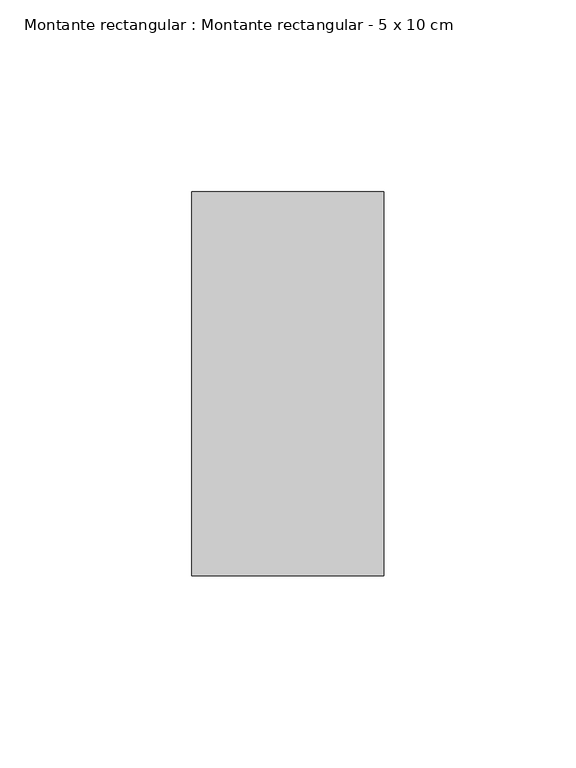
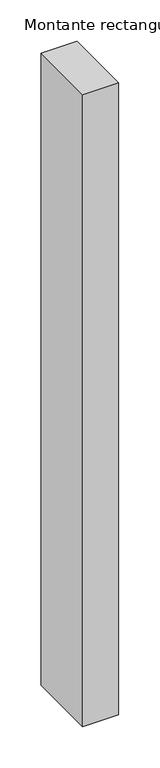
"""IFC4 building model written with IfcOpenShell, lengths in millimetres: member geometry, Montante rectangular : Montante rectangular - 5 x 10 cm."""

import ifcopenshell
import ifcopenshell.guid

model = None  # the IFC model being written
_history = None  # IfcOwnerHistory: only IFC2X3 demands one
_inside = {}  # id of a spatial element -> (the spatial element, [elements in it])
_under = {}  # id of a project, library or spatial element -> (it, [spatial elements below it])
_declared = {}  # id of a project -> (the project, [libraries it declares])
_typed = {}  # id of a type object -> (the type object, [elements of that type])
_made_of = {}  # id of a material, layer set ... -> (it, [elements and type objects made of it])


def new_model(schema):
    """Start an empty IFC model of exactly this schema.

    Asked for "IFC4X3", IfcOpenShell would pick the latest addendum, in which some entities
    have other attributes; the version numbers below select the first issue.
    IFC2X3 requires an IfcOwnerHistory on every rooted entity: one is made here for all.
    """
    global model, _history
    if schema == "IFC4X3":
        model = ifcopenshell.file(schema_version=(4, 3, 0, 0))
    else:
        model = ifcopenshell.file(schema=schema)
    _inside.clear()
    _under.clear()
    _declared.clear()
    _typed.clear()
    _made_of.clear()
    _history = None
    if model.schema == "IFC2X3":
        org = make("IfcOrganization", Name="unknown")
        user = make(
            "IfcPersonAndOrganization",
            ThePerson=make("IfcPerson", FamilyName="unknown"),
            TheOrganization=org,
        )
        app = make(
            "IfcApplication",
            ApplicationDeveloper=org,
            Version="unknown",
            ApplicationFullName="unknown",
            ApplicationIdentifier="unknown",
        )
        _history = make(
            "IfcOwnerHistory",
            OwningUser=user,
            OwningApplication=app,
            ChangeAction="ADDED",
            CreationDate=0,
        )
    return model


def make(cls, **values):
    """One entity of the class cls with the attributes given. An attribute that is None is left unset."""
    return model.create_entity(
        cls, **{name: value for name, value in values.items() if value is not None}
    )


def rooted(cls, **values):
    """An entity with a GlobalId (a new one), such as an element, a storey or a relation."""
    return make(cls, GlobalId=ifcopenshell.guid.new(), OwnerHistory=_history, **values)


def si_unit(unit_type, name, prefix=None):
    """IfcSIUnit, for example si_unit("LENGTHUNIT", "METRE", prefix="MILLI")."""
    return make("IfcSIUnit", UnitType=unit_type, Prefix=prefix, Name=name)


def assignment(units):
    """IfcUnitAssignment: the units of a project."""
    return None if units is None else make("IfcUnitAssignment", Units=units)


def point(xyz):
    """IfcCartesianPoint."""
    return None if xyz is None else make("IfcCartesianPoint", Coordinates=xyz)


def direction(xyz):
    """IfcDirection."""
    return None if xyz is None else make("IfcDirection", DirectionRatios=xyz)


def frame(location, z_axis=None, x_axis=None):
    """IfcAxis2Placement3D, a coordinate frame: its origin and axes. An axis left out is left unset."""
    return make(
        "IfcAxis2Placement3D",
        Location=point(location),
        Axis=direction(z_axis),
        RefDirection=direction(x_axis),
    )


def origin():
    """The frame at (0, 0, 0) with its axes left unset."""
    return frame((0.0, 0.0, 0.0))


def place(relative_to, where):
    """IfcLocalPlacement: puts the frame where relative to a parent placement (None: the world)."""
    return make(
        "IfcLocalPlacement", PlacementRelTo=relative_to, RelativePlacement=where
    )


def context(
    kind, dimensions, precision=None, world=None, true_north=None, identifier=None
):
    """IfcGeometricRepresentationContext, for example the 3D "Model" context."""
    return make(
        "IfcGeometricRepresentationContext",
        ContextIdentifier=identifier,
        ContextType=kind,
        CoordinateSpaceDimension=dimensions,
        Precision=precision,
        WorldCoordinateSystem=world,
        TrueNorth=true_north,
    )


def project(units=None, contexts=None):
    """IfcProject with its units and contexts."""
    return rooted(
        "IfcProject",
        Name="project",
        RepresentationContexts=contexts,
        UnitsInContext=assignment(units),
    )


def spatial(cls, under=None, at=None, **own):
    """A site, building, storey or space (cls), placed at a placement, below another one or the project."""
    s = rooted(cls, ObjectPlacement=at, **own)
    if under is not None:
        _under.setdefault(under.id(), (under, []))[1].append(s)
    return s


def polyline(points):
    """IfcPolyline through the points."""
    return make("IfcPolyline", Points=[point(p) for p in points])


def outline(outer, holes=None, kind="AREA"):
    """IfcArbitraryClosedProfileDef: a profile drawn as a closed curve; with holes, ...WithVoids."""
    if holes is None:
        return make("IfcArbitraryClosedProfileDef", ProfileType=kind, OuterCurve=outer)
    return make(
        "IfcArbitraryProfileDefWithVoids",
        ProfileType=kind,
        OuterCurve=outer,
        InnerCurves=holes,
    )


def extrude(swept, where, along, depth):
    """IfcExtrudedAreaSolid: the profile swept, set in the frame where, extruded along a direction by depth."""
    return make(
        "IfcExtrudedAreaSolid",
        SweptArea=swept,
        Position=where,
        ExtrudedDirection=direction(along),
        Depth=depth,
    )


def shape(context_of_items, identifier, shape_type, items):
    """IfcShapeRepresentation: the items that make up one representation, for example the "Body"."""
    return make(
        "IfcShapeRepresentation",
        ContextOfItems=context_of_items,
        RepresentationIdentifier=identifier,
        RepresentationType=shape_type,
        Items=items,
    )


def source(mapping_origin, context_of_items, identifier, shape_type, items):
    """IfcRepresentationMap: a shape defined once, which mapped items show again and again."""
    return make(
        "IfcRepresentationMap",
        MappingOrigin=mapping_origin,
        MappedRepresentation=shape(context_of_items, identifier, shape_type, items),
    )


def transform(
    local_origin,
    x_axis=None,
    y_axis=None,
    z_axis=None,
    scale=None,
    scale2=None,
    scale3=None,
    uniform=True,
):
    """IfcCartesianTransformationOperator3D, or its non-uniform kind. x_axis, y_axis, z_axis: its Axis1, 2, 3."""
    if uniform:
        return make(
            "IfcCartesianTransformationOperator3D",
            Axis1=direction(x_axis),
            Axis2=direction(y_axis),
            LocalOrigin=point(local_origin),
            Scale=scale,
            Axis3=direction(z_axis),
        )
    return make(
        "IfcCartesianTransformationOperator3DnonUniform",
        Axis1=direction(x_axis),
        Axis2=direction(y_axis),
        LocalOrigin=point(local_origin),
        Scale=scale,
        Axis3=direction(z_axis),
        Scale2=scale2,
        Scale3=scale3,
    )


def mapped(mapping_source, mapping_target):
    """IfcMappedItem: shows the shape of a source again, moved by a transform."""
    return make(
        "IfcMappedItem", MappingSource=mapping_source, MappingTarget=mapping_target
    )


def made_of(thing, what):
    """Note that an element or type object is made of a material, layer set ...; save() writes the relation."""
    if what is not None:
        _made_of.setdefault(what.id(), (what, []))[1].append(thing)
    return thing


def element(
    cls,
    number,
    at=None,
    inside=None,
    cuts=None,
    type_object=None,
    material=None,
    context=None,
    identifier="Body",
    shape_type=None,
    held_by="IfcProductDefinitionShape",
    body=None,
    shapes=None,
    **own,
):
    """One element of the class cls, such as IfcWall. Its Tag is "e" and its number.

    at: its placement. inside: the storey or other place that contains it. cuts: it is an
    opening in that element (IfcRelVoidsElement). A single representation is given by context,
    identifier, shape_type and body (its items); several are given by shapes. held_by: the class
    of the entity that holds the representations. save() writes the other relations.
    """
    e = rooted(cls, Tag="e%d" % number, ObjectPlacement=at, **own)
    if body is not None:
        shapes = [shape(context, identifier, shape_type, body)]
    if shapes is not None:
        e.Representation = make(held_by, Representations=shapes)
    if inside is not None:
        _inside.setdefault(inside.id(), (inside, []))[1].append(e)
    if cuts is not None:
        rooted(
            "IfcRelVoidsElement", RelatingBuildingElement=cuts, RelatedOpeningElement=e
        )
    if type_object is not None:
        _typed.setdefault(type_object.id(), (type_object, []))[1].append(e)
    return made_of(e, material)


def aggregate(whole, parts):
    """IfcRelAggregates: a whole, such as a stair, and the parts it consists of."""
    return rooted("IfcRelAggregates", RelatingObject=whole, RelatedObjects=parts)


def save(model, path):
    """Write the relations noted so far, then the file.

    IfcRelAggregates (storeys below a building ...), IfcRelContainedInSpatialStructure (elements
    in a storey), IfcRelDefinesByType, IfcRelAssociatesMaterial and IfcRelDeclares: one each for
    every whole, place, type object, material and project.
    """
    for whole, parts in _under.values():
        aggregate(whole, parts)
    for where, things in _inside.values():
        rooted(
            "IfcRelContainedInSpatialStructure",
            RelatedElements=things,
            RelatingStructure=where,
        )
    for kind, things in _typed.values():
        rooted("IfcRelDefinesByType", RelatedObjects=things, RelatingType=kind)
    for what, things in _made_of.values():
        rooted("IfcRelAssociatesMaterial", RelatedObjects=things, RelatingMaterial=what)
    for by, libraries in _declared.values():
        rooted("IfcRelDeclares", RelatingContext=by, RelatedDefinitions=libraries)
    model.write(path)


def montante_rectangular_montante_rectangular_5_x_10_cm_e15d60d8(model_context):
    return source(origin(), model_context, "Body", "SweptSolid", [
        extrude(outline(polyline([(25.0, 50.0), (25.0, -50.0), (-25.0, -50.0), (-25.0, 50.0), (25.0, 50.0)])), frame((0.0, 0.0, -930.2918782), z_axis=(0.0, 0.0, 1.0), x_axis=(1.0, 0.0, 0.0)), (0.0, 0.0, 1.0), 930.2918782),
    ])


if __name__ == "__main__":
    model = new_model("IFC4")
    model_context = context("Model", 3, world=origin())
    ifc_project = project(units=[si_unit("LENGTHUNIT", "METRE", prefix="MILLI")], contexts=[model_context])
    site = spatial("IfcSite", under=ifc_project)
    building = spatial("IfcBuilding", under=site)
    placement = place(None, origin())
    montante_rectangular_montante_rectangular_5_x_10_cm_shape = montante_rectangular_montante_rectangular_5_x_10_cm_e15d60d8(model_context)
    element("IfcMember", 1, ObjectType="Montante rectangular : Montante rectangular - 5 x 10 cm", at=placement, inside=building, context=model_context, shape_type="MappedRepresentation", body=[
        mapped(montante_rectangular_montante_rectangular_5_x_10_cm_shape, transform((0.0, 0.0, 0.0), x_axis=(1.0, 0.0, 0.0), y_axis=(0.0, 1.0, 0.0), z_axis=(0.0, 0.0, 1.0))),
    ])
    save(model, "model.ifc")
